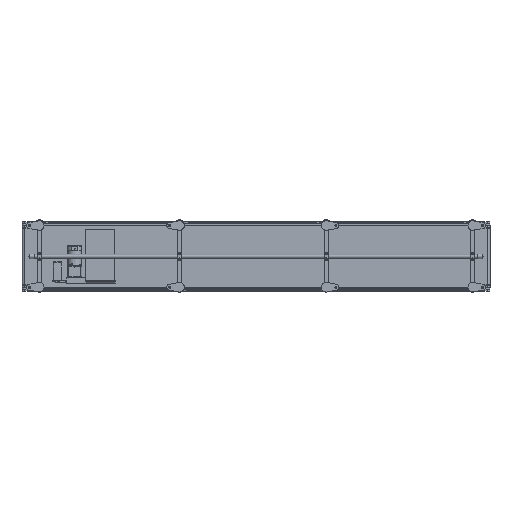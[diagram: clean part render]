
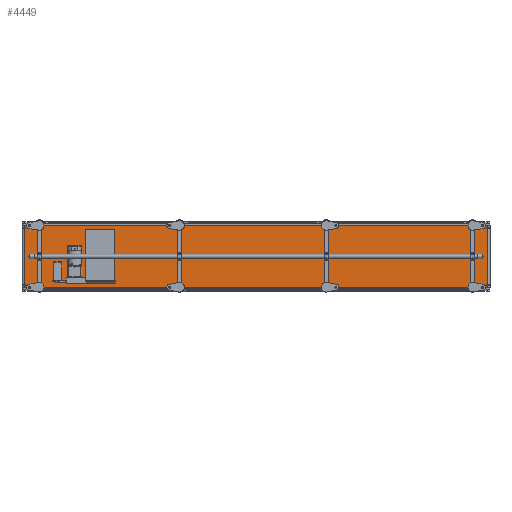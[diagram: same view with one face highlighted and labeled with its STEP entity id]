
A CAD part, front view. The second image highlights one B-rep face of the part: STEP entity #4449.
In plain terms, the highlighted planar face has unit normal (0, -1, 0).
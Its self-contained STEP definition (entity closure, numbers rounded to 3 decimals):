
#866 = CARTESIAN_POINT ( 'NONE',  ( 14., -26.8, -200. ) ) ;
#3896 = CARTESIAN_POINT ( 'NONE',  ( 14., -26.8, -200. ) ) ;
#3978 = LINE ( 'NONE', #65195, #50054 ) ;
#4449 = ADVANCED_FACE ( 'NONE', ( #100744 ), #39539, .F. ) ;
#5690 = ORIENTED_EDGE ( 'NONE', *, *, #92254, .F. ) ;
#5751 = VECTOR ( 'NONE', #43945, 1000. ) ;
#15663 = AXIS2_PLACEMENT_3D ( 'NONE', #24600, #32583, #31567 ) ;
#18209 = LINE ( 'NONE', #85307, #58101 ) ;
#21517 = VERTEX_POINT ( 'NONE', #866 ) ;
#23389 = EDGE_LOOP ( 'NONE', ( #42524, #5690, #31783, #56409 ) ) ;
#24600 = CARTESIAN_POINT ( 'NONE',  ( 14., -26.8, 200. ) ) ;
#30878 = VERTEX_POINT ( 'NONE', #36857 ) ;
#31567 = DIRECTION ( 'NONE',  ( 0., 0., 1. ) ) ;
#31783 = ORIENTED_EDGE ( 'NONE', *, *, #39914, .F. ) ;
#32583 = DIRECTION ( 'NONE',  ( 0., 1., 0. ) ) ;
#36857 = CARTESIAN_POINT ( 'NONE',  ( 2986., -26.8, 200. ) ) ;
#38330 = EDGE_CURVE ( 'NONE', #51616, #21517, #3978, .T. ) ;
#39539 = PLANE ( 'NONE',  #15663 ) ;
#39914 = EDGE_CURVE ( 'NONE', #51616, #30878, #74218, .T. ) ;
#41885 = DIRECTION ( 'NONE',  ( 0., 0., -1. ) ) ;
#42524 = ORIENTED_EDGE ( 'NONE', *, *, #92054, .T. ) ;
#43945 = DIRECTION ( 'NONE',  ( 1., 0., 0. ) ) ;
#45690 = DIRECTION ( 'NONE',  ( 0., 0., -1. ) ) ;
#50054 = VECTOR ( 'NONE', #41885, 1000. ) ;
#51616 = VERTEX_POINT ( 'NONE', #100384 ) ;
#56409 = ORIENTED_EDGE ( 'NONE', *, *, #38330, .T. ) ;
#58101 = VECTOR ( 'NONE', #45690, 1000. ) ;
#63016 = VECTOR ( 'NONE', #90157, 1000. ) ;
#65195 = CARTESIAN_POINT ( 'NONE',  ( 14., -26.8, 200. ) ) ;
#66192 = CARTESIAN_POINT ( 'NONE',  ( 14., -26.8, 200. ) ) ;
#74218 = LINE ( 'NONE', #66192, #63016 ) ;
#76854 = VERTEX_POINT ( 'NONE', #82728 ) ;
#81709 = LINE ( 'NONE', #3896, #5751 ) ;
#82728 = CARTESIAN_POINT ( 'NONE',  ( 2986., -26.8, -200. ) ) ;
#85307 = CARTESIAN_POINT ( 'NONE',  ( 2986., -26.8, 200. ) ) ;
#90157 = DIRECTION ( 'NONE',  ( 1., 0., 0. ) ) ;
#92054 = EDGE_CURVE ( 'NONE', #21517, #76854, #81709, .T. ) ;
#92254 = EDGE_CURVE ( 'NONE', #30878, #76854, #18209, .T. ) ;
#100384 = CARTESIAN_POINT ( 'NONE',  ( 14., -26.8, 200. ) ) ;
#100744 = FACE_OUTER_BOUND ( 'NONE', #23389, .T. ) ;
